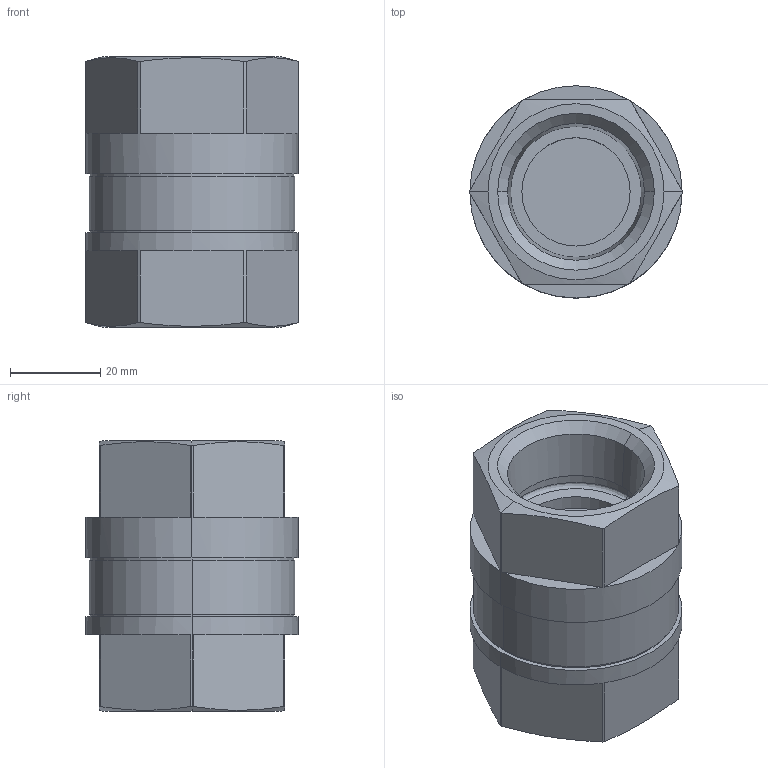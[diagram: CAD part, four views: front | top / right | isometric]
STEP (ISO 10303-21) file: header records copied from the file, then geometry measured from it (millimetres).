
FILE_DESCRIPTION( (''), '2;1');
FILE_NAME ('PC1276.4340.25A_13470.stp','2023-07-04T16:31:37',(''),(''),'spGate 19.8.4 (****-****-****-****)','','');
FILE_SCHEMA (('AUTOMOTIVE_DESIGN'));
Length unit declared in the file: millimetre
Bounding box: 47 x 47 x 60 mm (x, y, z)
Volume: 66919.1 mm3; surface area: 15800.2 mm2
Topology: 1 solids, 1 shells, 72 faces, 166 edges, 104 vertices
Faces by surface type: plane 34, bspline 22, cylinder 16
Entity records: 3639 total; most frequent: CARTESIAN_POINT 746, ORIENTED_EDGE 332, DIRECTION 296, COLOUR_RGB 239, PRESENTATION_STYLE_ASSIGNMENT 239, STYLED_ITEM 239, EDGE_CURVE 166, DRAUGHTING_PRE_DEFINED_CURVE_FONT 166
